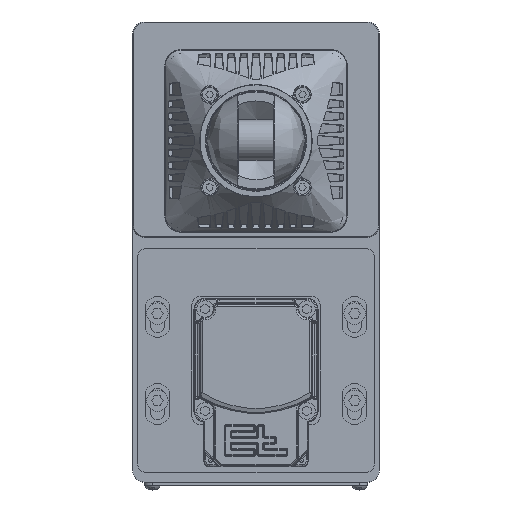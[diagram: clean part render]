
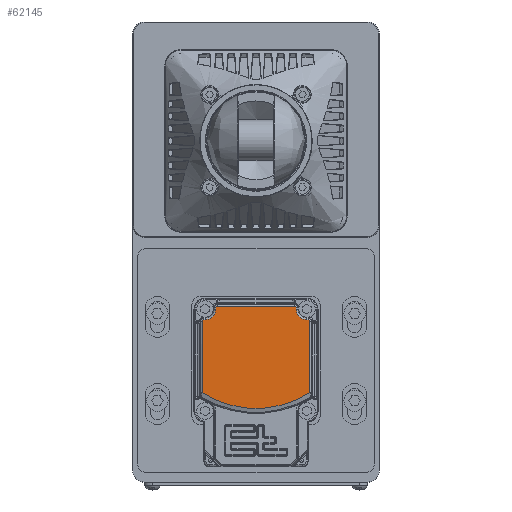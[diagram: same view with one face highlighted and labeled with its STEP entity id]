
A CAD part, top view. The second image highlights one B-rep face of the part: STEP entity #62145.
In plain terms, the highlighted planar face has unit normal (0, 0, 1).
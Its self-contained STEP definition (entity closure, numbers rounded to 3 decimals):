
#832 = CARTESIAN_POINT ( 'NONE',  ( 277.062, 87.372, 448.429 ) ) ;
#1052 = VERTEX_POINT ( 'NONE', #79476 ) ;
#1222 = EDGE_CURVE ( 'NONE', #83804, #209920, #119070, .T. ) ;
#3157 = CARTESIAN_POINT ( 'NONE',  ( 332.579, 79.586, 448.429 ) ) ;
#3175 = LINE ( 'NONE', #112316, #70468 ) ;
#4374 = VECTOR ( 'NONE', #32527, 1000. ) ;
#10878 = LINE ( 'NONE', #173954, #108488 ) ;
#13549 = VECTOR ( 'NONE', #152116, 1000. ) ;
#13760 = DIRECTION ( 'NONE',  ( 0., 0., 1. ) ) ;
#15413 = EDGE_CURVE ( 'NONE', #1052, #81691, #146150, .T. ) ;
#15446 = VECTOR ( 'NONE', #193791, 1000. ) ;
#16568 = ORIENTED_EDGE ( 'NONE', *, *, #83151, .T. ) ;
#18216 = AXIS2_PLACEMENT_3D ( 'NONE', #151448, #26668, #116671 ) ;
#18641 =( BOUNDED_CURVE ( )  B_SPLINE_CURVE ( 3, ( #54758, #216811, #832, #179625 ),
 .UNSPECIFIED., .F., .F. ) 
 B_SPLINE_CURVE_WITH_KNOTS ( ( 4, 4 ),
 ( 2.356, 3.927 ),
 .UNSPECIFIED. ) 
 CURVE ( )  GEOMETRIC_REPRESENTATION_ITEM ( )  RATIONAL_B_SPLINE_CURVE ( ( 1., 0.805, 0.805, 1. ) ) 
 REPRESENTATION_ITEM ( '' )  );
#22196 = ORIENTED_EDGE ( 'NONE', *, *, #73746, .T. ) ;
#23571 = CARTESIAN_POINT ( 'NONE',  ( 269.862, 79.586, 448.429 ) ) ;
#26067 = DIRECTION ( 'NONE',  ( 0., 1., 0. ) ) ;
#26668 = DIRECTION ( 'NONE',  ( 0., 0., -1. ) ) ;
#27260 = PLANE ( 'NONE',  #86894 ) ;
#28495 = EDGE_CURVE ( 'NONE', #209920, #120358, #45018, .T. ) ;
#30450 = CARTESIAN_POINT ( 'NONE',  ( 269.862, 79.586, 448.429 ) ) ;
#30787 = DIRECTION ( 'NONE',  ( 0., 0., 1. ) ) ;
#32527 = DIRECTION ( 'NONE',  ( 0., -1., 0. ) ) ;
#37190 = VERTEX_POINT ( 'NONE', #215519 ) ;
#40905 = VERTEX_POINT ( 'NONE', #30450 ) ;
#41246 = CARTESIAN_POINT ( 'NONE',  ( 326.096, 86.068, 448.429 ) ) ;
#45018 = CIRCLE ( 'NONE', #18216, 6.483 ) ;
#45976 = CARTESIAN_POINT ( 'NONE',  ( 333.297, 79.586, 448.429 ) ) ;
#49296 = LINE ( 'NONE', #110101, #4374 ) ;
#50415 = ORIENTED_EDGE ( 'NONE', *, *, #1222, .T. ) ;
#54758 = CARTESIAN_POINT ( 'NONE',  ( 278.062, 87.786, 448.429 ) ) ;
#57147 = CARTESIAN_POINT ( 'NONE',  ( 268.862, 79.172, 448.429 ) ) ;
#62145 = ADVANCED_FACE ( 'NONE', ( #135216 ), #27260, .T. ) ;
#63882 = CARTESIAN_POINT ( 'NONE',  ( 277.062, 86.068, 448.429 ) ) ;
#66210 = LINE ( 'NONE', #141689, #118279 ) ;
#69232 = AXIS2_PLACEMENT_3D ( 'NONE', #160269, #157898, #193889 ) ;
#70468 = VECTOR ( 'NONE', #235825, 1000. ) ;
#70516 = CARTESIAN_POINT ( 'NONE',  ( 277.062, 86.068, 448.429 ) ) ;
#71036 =( BOUNDED_CURVE ( )  B_SPLINE_CURVE ( 3, ( #23571, #222660, #57147, #150672 ),
 .UNSPECIFIED., .F., .F. ) 
 B_SPLINE_CURVE_WITH_KNOTS ( ( 4, 4 ),
 ( 2.356, 3.927 ),
 .UNSPECIFIED. ) 
 CURVE ( )  GEOMETRIC_REPRESENTATION_ITEM ( )  RATIONAL_B_SPLINE_CURVE ( ( 1., 0.805, 0.805, 1. ) ) 
 REPRESENTATION_ITEM ( '' )  );
#71311 = CARTESIAN_POINT ( 'NONE',  ( 334.296, 78.586, 448.429 ) ) ;
#71664 = EDGE_LOOP ( 'NONE', ( #94431, #101216, #210159, #121159, #228345, #16568, #152808, #22196, #198109, #129586, #201141, #50415, #166209, #178225 ) ) ;
#73570 = CARTESIAN_POINT ( 'NONE',  ( 268.862, 78.586, 448.429 ) ) ;
#73746 = EDGE_CURVE ( 'NONE', #110724, #1052, #81267, .T. ) ;
#77017 = CARTESIAN_POINT ( 'NONE',  ( 325.097, 87.786, 448.429 ) ) ;
#77801 = EDGE_CURVE ( 'NONE', #193955, #37190, #168641, .T. ) ;
#78909 = CARTESIAN_POINT ( 'NONE',  ( 326.096, 86.769, 448.429 ) ) ;
#79476 = CARTESIAN_POINT ( 'NONE',  ( 326.096, 86.786, 448.429 ) ) ;
#81267 = LINE ( 'NONE', #78909, #13549 ) ;
#81691 = VERTEX_POINT ( 'NONE', #104097 ) ;
#83151 = EDGE_CURVE ( 'NONE', #114023, #228908, #10878, .T. ) ;
#83684 = EDGE_CURVE ( 'NONE', #81691, #117436, #3175, .T. ) ;
#83804 = VERTEX_POINT ( 'NONE', #169849 ) ;
#84549 = LINE ( 'NONE', #211768, #15446 ) ;
#86894 = AXIS2_PLACEMENT_3D ( 'NONE', #139956, #30787, #26067 ) ;
#91426 = CARTESIAN_POINT ( 'NONE',  ( 325.682, 87.786, 448.429 ) ) ;
#92602 = EDGE_CURVE ( 'NONE', #117436, #83804, #18641, .T. ) ;
#94431 = ORIENTED_EDGE ( 'NONE', *, *, #151667, .T. ) ;
#101127 =( BOUNDED_CURVE ( )  B_SPLINE_CURVE ( 3, ( #197281, #228481, #157781, #233194 ),
 .UNSPECIFIED., .F., .F. ) 
 B_SPLINE_CURVE_WITH_KNOTS ( ( 4, 4 ),
 ( 2.356, 3.927 ),
 .UNSPECIFIED. ) 
 CURVE ( )  GEOMETRIC_REPRESENTATION_ITEM ( )  RATIONAL_B_SPLINE_CURVE ( ( 1., 0.805, 0.805, 1. ) ) 
 REPRESENTATION_ITEM ( '' )  );
#101216 = ORIENTED_EDGE ( 'NONE', *, *, #220278, .T. ) ;
#104097 = CARTESIAN_POINT ( 'NONE',  ( 325.097, 87.786, 448.429 ) ) ;
#107139 = CARTESIAN_POINT ( 'NONE',  ( 326.096, 87.372, 448.429 ) ) ;
#108488 = VECTOR ( 'NONE', #175137, 1000. ) ;
#110101 = CARTESIAN_POINT ( 'NONE',  ( 268.862, 35.763, 448.429 ) ) ;
#110724 = VERTEX_POINT ( 'NONE', #41246 ) ;
#112316 = CARTESIAN_POINT ( 'NONE',  ( 278.079, 87.786, 448.429 ) ) ;
#114023 = VERTEX_POINT ( 'NONE', #45976 ) ;
#116671 = DIRECTION ( 'NONE',  ( 0., 1., 0. ) ) ;
#117436 = VERTEX_POINT ( 'NONE', #164676 ) ;
#118279 = VECTOR ( 'NONE', #122578, 1000. ) ;
#119070 = LINE ( 'NONE', #63882, #143900 ) ;
#120358 = VERTEX_POINT ( 'NONE', #185790 ) ;
#121159 = ORIENTED_EDGE ( 'NONE', *, *, #146454, .T. ) ;
#122578 = DIRECTION ( 'NONE',  ( 0., 1., 0. ) ) ;
#129586 = ORIENTED_EDGE ( 'NONE', *, *, #83684, .T. ) ;
#135216 = FACE_OUTER_BOUND ( 'NONE', #71664, .T. ) ;
#139956 = CARTESIAN_POINT ( 'NONE',  ( 264.079, 92.568, 448.429 ) ) ;
#141689 = CARTESIAN_POINT ( 'NONE',  ( 334.296, 78.569, 448.429 ) ) ;
#143900 = VECTOR ( 'NONE', #189835, 1000. ) ;
#145717 = CIRCLE ( 'NONE', #69232, 6.483 ) ;
#146150 =( BOUNDED_CURVE ( )  B_SPLINE_CURVE ( 3, ( #198299, #107139, #91426, #77017 ),
 .UNSPECIFIED., .F., .F. ) 
 B_SPLINE_CURVE_WITH_KNOTS ( ( 4, 4 ),
 ( 2.356, 3.927 ),
 .UNSPECIFIED. ) 
 CURVE ( )  GEOMETRIC_REPRESENTATION_ITEM ( )  RATIONAL_B_SPLINE_CURVE ( ( 1., 0.805, 0.805, 1. ) ) 
 REPRESENTATION_ITEM ( '' )  );
#146454 = EDGE_CURVE ( 'NONE', #37190, #192676, #66210, .T. ) ;
#150672 = CARTESIAN_POINT ( 'NONE',  ( 268.862, 78.586, 448.429 ) ) ;
#151448 = CARTESIAN_POINT ( 'NONE',  ( 270.579, 86.068, 448.429 ) ) ;
#151667 = EDGE_CURVE ( 'NONE', #40905, #218393, #71036, .T. ) ;
#152116 = DIRECTION ( 'NONE',  ( 0., 1., 0. ) ) ;
#152808 = ORIENTED_EDGE ( 'NONE', *, *, #205997, .T. ) ;
#154620 = EDGE_CURVE ( 'NONE', #120358, #40905, #84549, .T. ) ;
#157781 = CARTESIAN_POINT ( 'NONE',  ( 333.882, 79.586, 448.429 ) ) ;
#157898 = DIRECTION ( 'NONE',  ( 0., 0., -1. ) ) ;
#160269 = CARTESIAN_POINT ( 'NONE',  ( 332.579, 86.068, 448.429 ) ) ;
#164676 = CARTESIAN_POINT ( 'NONE',  ( 278.062, 87.786, 448.429 ) ) ;
#166209 = ORIENTED_EDGE ( 'NONE', *, *, #28495, .T. ) ;
#168641 = CIRCLE ( 'NONE', #222340, 60.8 ) ;
#169849 = CARTESIAN_POINT ( 'NONE',  ( 277.062, 86.786, 448.429 ) ) ;
#173954 = CARTESIAN_POINT ( 'NONE',  ( 332.579, 79.586, 448.429 ) ) ;
#175137 = DIRECTION ( 'NONE',  ( -1., 0., 0. ) ) ;
#178086 = CARTESIAN_POINT ( 'NONE',  ( 301.579, 86.368, 448.429 ) ) ;
#178225 = ORIENTED_EDGE ( 'NONE', *, *, #154620, .T. ) ;
#179625 = CARTESIAN_POINT ( 'NONE',  ( 277.062, 86.786, 448.429 ) ) ;
#185790 = CARTESIAN_POINT ( 'NONE',  ( 270.579, 79.586, 448.429 ) ) ;
#189835 = DIRECTION ( 'NONE',  ( 0., -1., 0. ) ) ;
#192676 = VERTEX_POINT ( 'NONE', #71311 ) ;
#193791 = DIRECTION ( 'NONE',  ( -1., 0., 0. ) ) ;
#193889 = DIRECTION ( 'NONE',  ( 0., 1., 0. ) ) ;
#193955 = VERTEX_POINT ( 'NONE', #228598 ) ;
#197281 = CARTESIAN_POINT ( 'NONE',  ( 334.296, 78.586, 448.429 ) ) ;
#198109 = ORIENTED_EDGE ( 'NONE', *, *, #15413, .T. ) ;
#198299 = CARTESIAN_POINT ( 'NONE',  ( 326.096, 86.786, 448.429 ) ) ;
#201141 = ORIENTED_EDGE ( 'NONE', *, *, #92602, .T. ) ;
#205997 = EDGE_CURVE ( 'NONE', #228908, #110724, #145717, .T. ) ;
#209920 = VERTEX_POINT ( 'NONE', #70516 ) ;
#210159 = ORIENTED_EDGE ( 'NONE', *, *, #77801, .T. ) ;
#211768 = CARTESIAN_POINT ( 'NONE',  ( 269.879, 79.586, 448.429 ) ) ;
#212904 = DIRECTION ( 'NONE',  ( 0., 1., 0. ) ) ;
#215519 = CARTESIAN_POINT ( 'NONE',  ( 334.296, 35.122, 448.429 ) ) ;
#216811 = CARTESIAN_POINT ( 'NONE',  ( 277.476, 87.786, 448.429 ) ) ;
#218393 = VERTEX_POINT ( 'NONE', #73570 ) ;
#219040 = EDGE_CURVE ( 'NONE', #192676, #114023, #101127, .T. ) ;
#220278 = EDGE_CURVE ( 'NONE', #218393, #193955, #49296, .T. ) ;
#222340 = AXIS2_PLACEMENT_3D ( 'NONE', #178086, #13760, #212904 ) ;
#222660 = CARTESIAN_POINT ( 'NONE',  ( 269.276, 79.586, 448.429 ) ) ;
#228345 = ORIENTED_EDGE ( 'NONE', *, *, #219040, .T. ) ;
#228481 = CARTESIAN_POINT ( 'NONE',  ( 334.296, 79.172, 448.429 ) ) ;
#228598 = CARTESIAN_POINT ( 'NONE',  ( 268.862, 35.122, 448.429 ) ) ;
#228908 = VERTEX_POINT ( 'NONE', #3157 ) ;
#233194 = CARTESIAN_POINT ( 'NONE',  ( 333.297, 79.586, 448.429 ) ) ;
#235825 = DIRECTION ( 'NONE',  ( -1., 0., 0. ) ) ;
